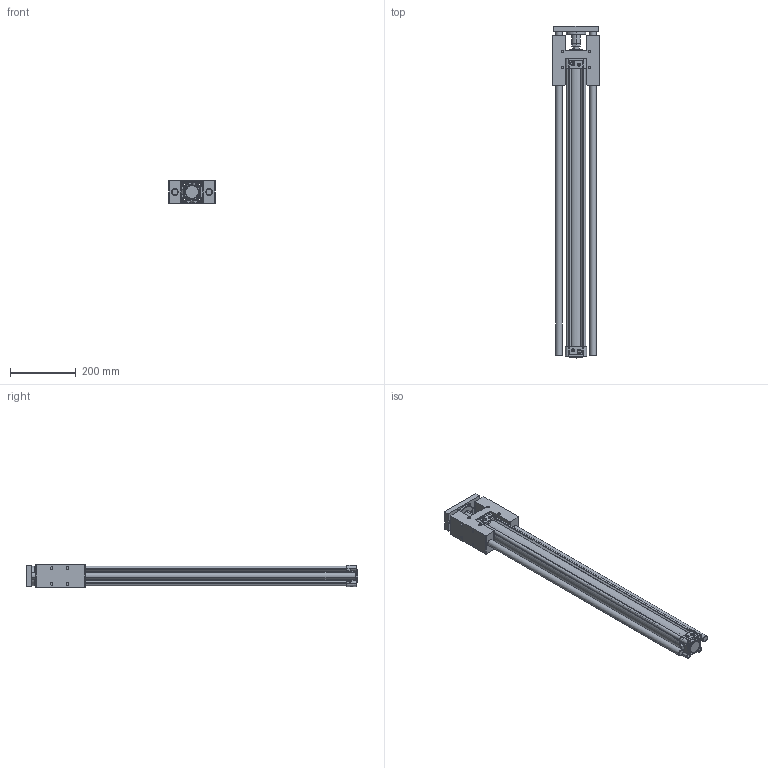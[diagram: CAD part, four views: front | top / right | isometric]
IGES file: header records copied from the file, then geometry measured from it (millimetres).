
Start section: SolidWorks IGES file using analytic representation for surfaces
Global section: file name: D:\ARICA 3D 禽Z軲LER\3D IGES\DNC-H\MDNC\50\MDNC50X800H-YATAK.IGS,1; native system: 5HSolidWorks 2013; preprocessor: SolidWorks 2013; author: user; date: 160518.143500; units: millimetre
Bounding box: 142 x 1008.4 x 68.5 mm (x, y, z)
Surface area: 855821.5 mm2 (no closed solid volume)
Topology: 0 solids, 0 shells, 941 faces, 18184 edges, 18180 vertices
Faces by surface type: revolution 566, bspline 375
